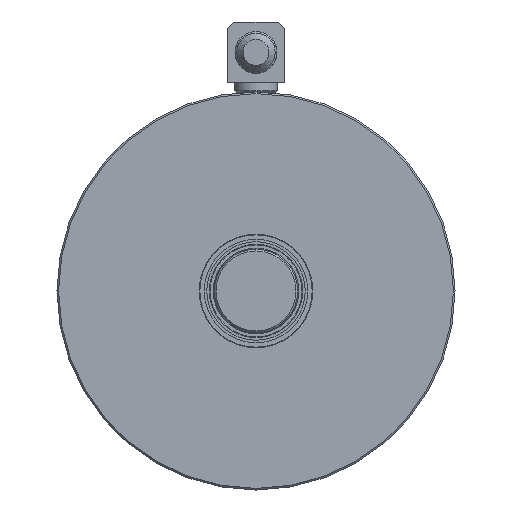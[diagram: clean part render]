
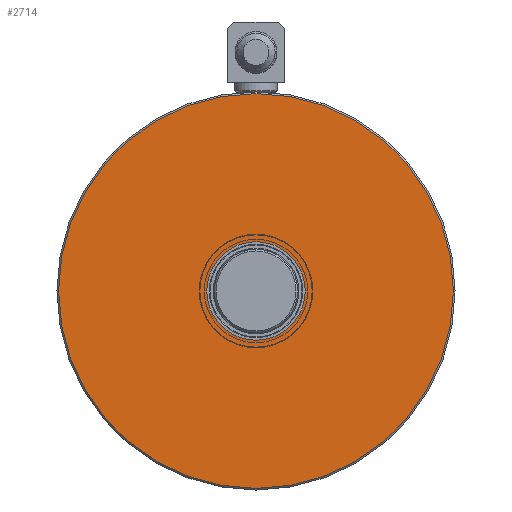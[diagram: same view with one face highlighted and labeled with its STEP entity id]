
A CAD part, left-side view. The second image highlights one B-rep face of the part: STEP entity #2714.
In plain terms, the highlighted planar face has unit normal (-1, 0, 0).
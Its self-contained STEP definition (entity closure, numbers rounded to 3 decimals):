
#125=FACE_BOUND('',#501,.T.);
#182=PLANE('',#2996);
#308=FACE_OUTER_BOUND('',#500,.T.);
#500=EDGE_LOOP('',(#2025));
#501=EDGE_LOOP('',(#2026));
#1006=CIRCLE('',#2997,60.1);
#1007=CIRCLE('',#2998,15.);
#1199=VERTEX_POINT('',#4466);
#1200=VERTEX_POINT('',#4468);
#1490=EDGE_CURVE('',#1199,#1199,#1006,.T.);
#1491=EDGE_CURVE('',#1200,#1200,#1007,.T.);
#2025=ORIENTED_EDGE('',*,*,#1490,.F.);
#2026=ORIENTED_EDGE('',*,*,#1491,.T.);
#2714=ADVANCED_FACE('',(#308,#125),#182,.F.);
#2996=AXIS2_PLACEMENT_3D('',#4465,#3588,#3589);
#2997=AXIS2_PLACEMENT_3D('',#4467,#3590,#3591);
#2998=AXIS2_PLACEMENT_3D('',#4469,#3592,#3593);
#3588=DIRECTION('center_axis',(1.,0.,0.));
#3589=DIRECTION('ref_axis',(0.,0.,1.));
#3590=DIRECTION('center_axis',(1.,0.,0.));
#3591=DIRECTION('ref_axis',(0.,1.,0.));
#3592=DIRECTION('center_axis',(1.,0.,0.));
#3593=DIRECTION('ref_axis',(0.,0.,-1.));
#4465=CARTESIAN_POINT('Origin',(-313.9,0.,0.));
#4466=CARTESIAN_POINT('',(-313.9,-60.1,0.));
#4467=CARTESIAN_POINT('Origin',(-313.9,0.,0.));
#4468=CARTESIAN_POINT('',(-313.9,0.,15.));
#4469=CARTESIAN_POINT('Origin',(-313.9,0.,0.));
